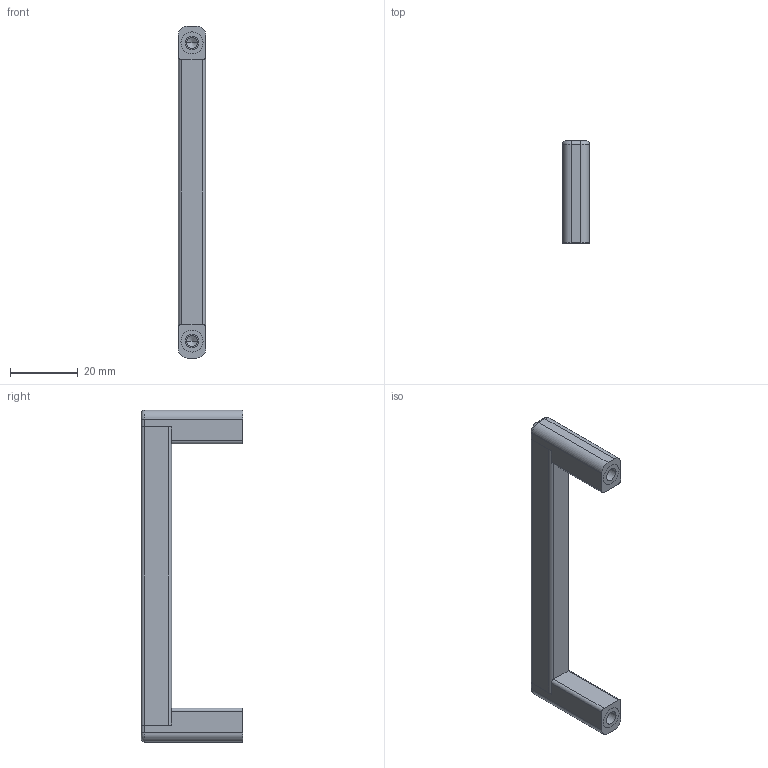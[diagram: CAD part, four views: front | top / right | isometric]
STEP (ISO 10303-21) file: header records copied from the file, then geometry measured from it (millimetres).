
FILE_DESCRIPTION (( 'STEP AP203' ), '1' );
FILE_NAME ('79350.W0088-1.step', '2018-04-28T14:53:03', ( '' ), ( '' ), 'SwSTEP 2.0', 'SolidWorks 2017', '' );
FILE_SCHEMA (( 'CONFIG_CONTROL_DESIGN' ));
Length unit declared in the file: millimetre
Products named in the file (3): 79350.W0088-1; Part1; Part3_79350.W0088-1
Assembly tree (3 placements, depth 2):
  79350.W0088-1
    Part3_79350.W0088-1
    Part1  x2
Bounding box: 8 x 30 x 98 mm (x, y, z)
Volume: 9335.2 mm3; surface area: 7778.4 mm2
Topology: 5 solids, 5 shells, 110 faces, 266 edges, 162 vertices
Faces by surface type: cylinder 46, plane 40, cone 12, torus 12
Entity records: 2190 total; most frequent: DIRECTION 355, CARTESIAN_POINT 318, ORIENTED_EDGE 302, EDGE_CURVE 151, AXIS2_PLACEMENT_3D 134, VERTEX_POINT 97, VECTOR 87, LINE 87
